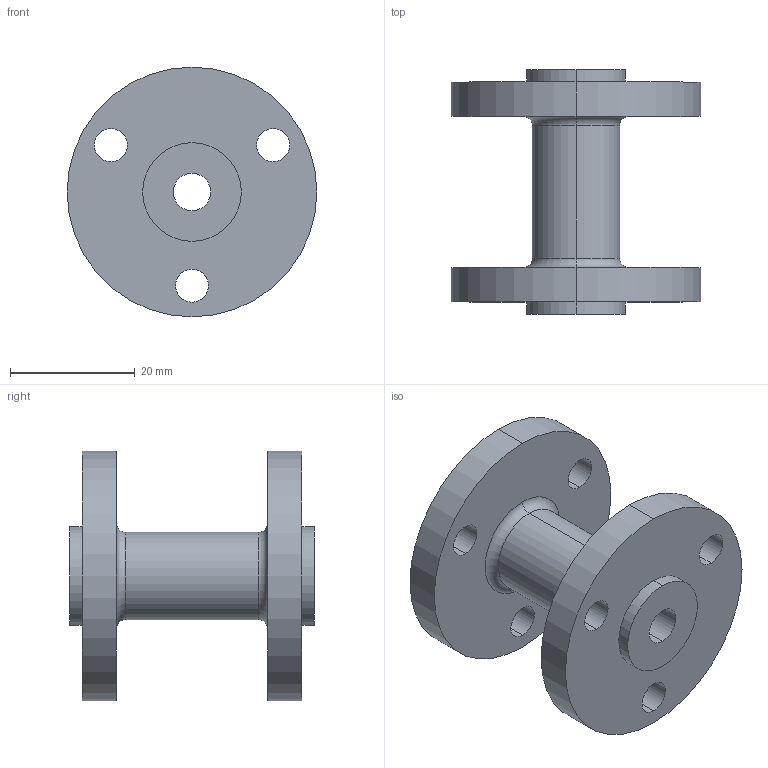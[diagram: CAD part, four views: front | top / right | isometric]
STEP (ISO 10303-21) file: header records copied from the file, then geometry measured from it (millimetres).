
FILE_DESCRIPTION (( 'STEP AP214' ), '1' );
FILE_NAME ('Pressure Vessel_v1.STEP', '2022-11-16T23:06:02', ( '' ), ( '' ), 'SwSTEP 2.0', 'SolidWorks 2022', '' );
FILE_SCHEMA (( 'AUTOMOTIVE_DESIGN' ));
Length unit declared in the file: millimetre
Products named in the file (1): Pressure Vessel_v1
Bounding box: 40 x 39.2 x 40 mm (x, y, z)
Volume: 16540.7 mm3; surface area: 8276.3 mm2
Topology: 1 solids, 1 shells, 34 faces, 80 edges, 52 vertices
Faces by surface type: cylinder 24, plane 6, torus 4
Entity records: 1070 total; most frequent: DIRECTION 206, CARTESIAN_POINT 167, ORIENTED_EDGE 160, AXIS2_PLACEMENT_3D 91, EDGE_CURVE 80, CIRCLE 56, EDGE_LOOP 52, VERTEX_POINT 52
